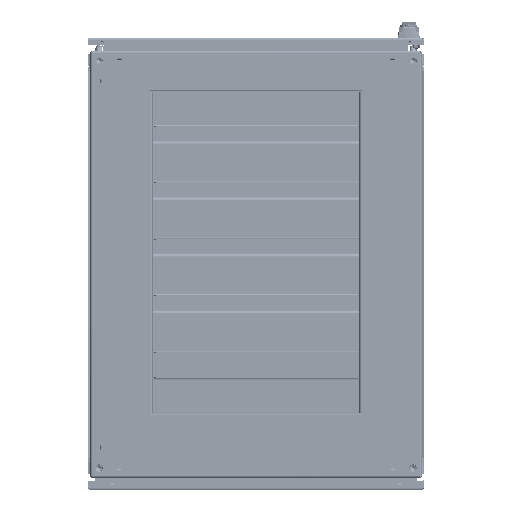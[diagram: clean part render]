
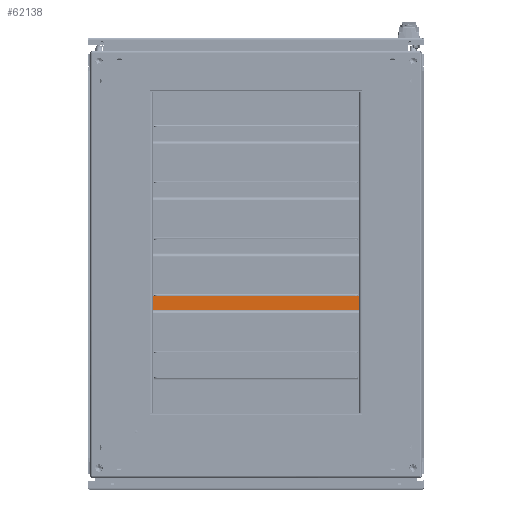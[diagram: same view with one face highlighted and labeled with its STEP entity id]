
A CAD part, front view. The second image highlights one B-rep face of the part: STEP entity #62138.
In plain terms, the highlighted planar face has unit normal (0, -1, 0).
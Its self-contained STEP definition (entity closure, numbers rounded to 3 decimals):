
#569 = DIRECTION ( 'NONE',  ( -1., 0., 0. ) ) ;
#2355 = CARTESIAN_POINT ( 'NONE',  ( -75.681, 2.3, 0. ) ) ;
#6676 = CARTESIAN_POINT ( 'NONE',  ( -105.681, 2.3, -432. ) ) ;
#7172 = VECTOR ( 'NONE', #99721, 1000. ) ;
#11654 = CARTESIAN_POINT ( 'NONE',  ( -130.681, 2.3, -17. ) ) ;
#17803 = CARTESIAN_POINT ( 'NONE',  ( -100.681, 2.3, -432. ) ) ;
#23735 = VERTEX_POINT ( 'NONE', #29572 ) ;
#27131 = EDGE_CURVE ( 'NONE', #38843, #72055, #151641, .T. ) ;
#29572 = CARTESIAN_POINT ( 'NONE',  ( -105.681, 2.3, -5. ) ) ;
#32481 = CARTESIAN_POINT ( 'NONE',  ( -75.681, 2.3, -432. ) ) ;
#36101 = AXIS2_PLACEMENT_3D ( 'NONE', #51805, #192894, #72130 ) ;
#37301 = CARTESIAN_POINT ( 'NONE',  ( -75.681, 2.3, -432. ) ) ;
#38293 = CARTESIAN_POINT ( 'NONE',  ( -75.681, 2.3, -432. ) ) ;
#38843 = VERTEX_POINT ( 'NONE', #65102 ) ;
#40366 = VECTOR ( 'NONE', #50060, 1000. ) ;
#40874 = EDGE_CURVE ( 'NONE', #78971, #85970, #247156, .T. ) ;
#40921 = EDGE_CURVE ( 'NONE', #183981, #167134, #234509, .T. ) ;
#40986 = DIRECTION ( 'NONE',  ( 0., 1., 0. ) ) ;
#43679 = LINE ( 'NONE', #261030, #211017 ) ;
#44098 = ORIENTED_EDGE ( 'NONE', *, *, #248265, .T. ) ;
#47064 = ORIENTED_EDGE ( 'NONE', *, *, #120904, .T. ) ;
#47252 = DIRECTION ( 'NONE',  ( 0., 0., -1. ) ) ;
#47344 = VECTOR ( 'NONE', #221485, 1000. ) ;
#48125 = EDGE_CURVE ( 'NONE', #183981, #142687, #181660, .T. ) ;
#49437 = AXIS2_PLACEMENT_3D ( 'NONE', #236186, #115358, #256446 ) ;
#50060 = DIRECTION ( 'NONE',  ( -1., 0., 0. ) ) ;
#51464 = CIRCLE ( 'NONE', #198625, 5. ) ;
#51625 = CARTESIAN_POINT ( 'NONE',  ( -110.681, 2.3, -415. ) ) ;
#51805 = CARTESIAN_POINT ( 'NONE',  ( -100.681, 2.3, -427. ) ) ;
#52827 = DIRECTION ( 'NONE',  ( 0., 1., 0. ) ) ;
#59184 = VERTEX_POINT ( 'NONE', #138895 ) ;
#59693 = VECTOR ( 'NONE', #140536, 1000. ) ;
#61233 = VECTOR ( 'NONE', #237680, 1000. ) ;
#62138 = ADVANCED_FACE ( 'NONE', ( #244660 ), #172777, .F. ) ;
#65102 = CARTESIAN_POINT ( 'NONE',  ( -135.681, 2.3, -410. ) ) ;
#65144 = CARTESIAN_POINT ( 'NONE',  ( -100.681, 2.3, -5. ) ) ;
#71254 = CARTESIAN_POINT ( 'NONE',  ( -105.681, 2.3, -12. ) ) ;
#72055 = VERTEX_POINT ( 'NONE', #161997 ) ;
#72130 = DIRECTION ( 'NONE',  ( -1., 0., 0. ) ) ;
#78546 = CARTESIAN_POINT ( 'NONE',  ( -130.681, 2.3, -22. ) ) ;
#78971 = VERTEX_POINT ( 'NONE', #11654 ) ;
#78979 = DIRECTION ( 'NONE',  ( -1., 0., 0. ) ) ;
#80685 = VERTEX_POINT ( 'NONE', #163421 ) ;
#84569 = ORIENTED_EDGE ( 'NONE', *, *, #237149, .T. ) ;
#85366 = ORIENTED_EDGE ( 'NONE', *, *, #48125, .T. ) ;
#85470 = DIRECTION ( 'NONE',  ( -1., 0., 0. ) ) ;
#85970 = VERTEX_POINT ( 'NONE', #196336 ) ;
#88747 = EDGE_CURVE ( 'NONE', #59184, #198581, #220683, .T. ) ;
#95140 = EDGE_CURVE ( 'NONE', #59184, #142687, #221165, .T. ) ;
#98832 = DIRECTION ( 'NONE',  ( -1., 0., 0. ) ) ;
#99721 = DIRECTION ( 'NONE',  ( 0., 0., 1. ) ) ;
#106885 = ORIENTED_EDGE ( 'NONE', *, *, #27131, .T. ) ;
#107721 = ORIENTED_EDGE ( 'NONE', *, *, #95140, .F. ) ;
#108665 = CIRCLE ( 'NONE', #137910, 5. ) ;
#108816 = ORIENTED_EDGE ( 'NONE', *, *, #40874, .T. ) ;
#115274 = CIRCLE ( 'NONE', #218843, 5. ) ;
#115358 = DIRECTION ( 'NONE',  ( 0., -1., 0. ) ) ;
#117234 = ORIENTED_EDGE ( 'NONE', *, *, #191788, .T. ) ;
#120904 = EDGE_CURVE ( 'NONE', #186586, #23735, #108665, .T. ) ;
#121524 = DIRECTION ( 'NONE',  ( 0., 1., 0. ) ) ;
#131303 = EDGE_CURVE ( 'NONE', #214307, #72055, #208394, .T. ) ;
#137910 = AXIS2_PLACEMENT_3D ( 'NONE', #65144, #206273, #85470 ) ;
#138220 = CARTESIAN_POINT ( 'NONE',  ( -105.681, 2.3, -427. ) ) ;
#138895 = CARTESIAN_POINT ( 'NONE',  ( -75.681, 2.3, -432. ) ) ;
#140536 = DIRECTION ( 'NONE',  ( 0., 0., 1. ) ) ;
#141104 = DIRECTION ( 'NONE',  ( 0., 0., 1. ) ) ;
#142687 = VERTEX_POINT ( 'NONE', #17803 ) ;
#145393 = EDGE_CURVE ( 'NONE', #214307, #167134, #51464, .T. ) ;
#151641 = CIRCLE ( 'NONE', #49437, 5. ) ;
#156802 = ORIENTED_EDGE ( 'NONE', *, *, #40921, .F. ) ;
#160779 = ORIENTED_EDGE ( 'NONE', *, *, #88747, .T. ) ;
#161656 = VECTOR ( 'NONE', #47252, 1000. ) ;
#161924 = CARTESIAN_POINT ( 'NONE',  ( -110.681, 2.3, -420. ) ) ;
#161997 = CARTESIAN_POINT ( 'NONE',  ( -130.681, 2.3, -415. ) ) ;
#163421 = CARTESIAN_POINT ( 'NONE',  ( -110.681, 2.3, -17. ) ) ;
#166271 = EDGE_LOOP ( 'NONE', ( #172721, #106885, #242601, #243538, #156802, #85366, #107721, #160779, #44098, #47064, #84569, #194023, #117234, #108816 ) ) ;
#167134 = VERTEX_POINT ( 'NONE', #254490 ) ;
#167497 = VECTOR ( 'NONE', #78979, 1000. ) ;
#167941 = LINE ( 'NONE', #6676, #161656 ) ;
#170910 = CARTESIAN_POINT ( 'NONE',  ( -75.681, 2.3, 0. ) ) ;
#172721 = ORIENTED_EDGE ( 'NONE', *, *, #249619, .F. ) ;
#172777 = PLANE ( 'NONE',  #256785 ) ;
#172861 = VERTEX_POINT ( 'NONE', #71254 ) ;
#181660 = CIRCLE ( 'NONE', #36101, 5. ) ;
#182153 = DIRECTION ( 'NONE',  ( -1., 0., 0. ) ) ;
#183981 = VERTEX_POINT ( 'NONE', #138220 ) ;
#186586 = VERTEX_POINT ( 'NONE', #234936 ) ;
#191788 = EDGE_CURVE ( 'NONE', #80685, #78971, #222234, .T. ) ;
#192894 = DIRECTION ( 'NONE',  ( 0., -1., 0. ) ) ;
#193936 = DIRECTION ( 'NONE',  ( -1., 0., 0. ) ) ;
#194023 = ORIENTED_EDGE ( 'NONE', *, *, #212377, .T. ) ;
#196336 = CARTESIAN_POINT ( 'NONE',  ( -135.681, 2.3, -22. ) ) ;
#198581 = VERTEX_POINT ( 'NONE', #2355 ) ;
#198625 = AXIS2_PLACEMENT_3D ( 'NONE', #161924, #40986, #182153 ) ;
#201152 = CARTESIAN_POINT ( 'NONE',  ( -75.681, 2.3, -415. ) ) ;
#206273 = DIRECTION ( 'NONE',  ( 0., -1., 0. ) ) ;
#208394 = LINE ( 'NONE', #201152, #47344 ) ;
#211017 = VECTOR ( 'NONE', #141104, 1000. ) ;
#212377 = EDGE_CURVE ( 'NONE', #172861, #80685, #115274, .T. ) ;
#214307 = VERTEX_POINT ( 'NONE', #51625 ) ;
#217391 = CARTESIAN_POINT ( 'NONE',  ( -75.681, 2.3, -17. ) ) ;
#217446 = AXIS2_PLACEMENT_3D ( 'NONE', #78546, #219629, #98832 ) ;
#218843 = AXIS2_PLACEMENT_3D ( 'NONE', #242343, #121524, #569 ) ;
#219629 = DIRECTION ( 'NONE',  ( 0., -1., 0. ) ) ;
#220683 = LINE ( 'NONE', #37301, #59693 ) ;
#221165 = LINE ( 'NONE', #38293, #167497 ) ;
#221485 = DIRECTION ( 'NONE',  ( -1., 0., 0. ) ) ;
#222234 = LINE ( 'NONE', #217391, #61233 ) ;
#234509 = LINE ( 'NONE', #240784, #7172 ) ;
#234936 = CARTESIAN_POINT ( 'NONE',  ( -100.681, 2.3, 0. ) ) ;
#236186 = CARTESIAN_POINT ( 'NONE',  ( -130.681, 2.3, -410. ) ) ;
#237149 = EDGE_CURVE ( 'NONE', #23735, #172861, #167941, .T. ) ;
#237680 = DIRECTION ( 'NONE',  ( -1., 0., 0. ) ) ;
#240784 = CARTESIAN_POINT ( 'NONE',  ( -105.681, 2.3, -432. ) ) ;
#242343 = CARTESIAN_POINT ( 'NONE',  ( -110.681, 2.3, -12. ) ) ;
#242601 = ORIENTED_EDGE ( 'NONE', *, *, #131303, .F. ) ;
#243538 = ORIENTED_EDGE ( 'NONE', *, *, #145393, .T. ) ;
#244660 = FACE_OUTER_BOUND ( 'NONE', #166271, .T. ) ;
#247156 = CIRCLE ( 'NONE', #217446, 5. ) ;
#248265 = EDGE_CURVE ( 'NONE', #198581, #186586, #248709, .T. ) ;
#248709 = LINE ( 'NONE', #170910, #40366 ) ;
#249619 = EDGE_CURVE ( 'NONE', #38843, #85970, #43679, .T. ) ;
#254490 = CARTESIAN_POINT ( 'NONE',  ( -105.681, 2.3, -420. ) ) ;
#256446 = DIRECTION ( 'NONE',  ( -1., 0., 0. ) ) ;
#256785 = AXIS2_PLACEMENT_3D ( 'NONE', #32481, #52827, #193936 ) ;
#261030 = CARTESIAN_POINT ( 'NONE',  ( -135.681, 2.3, -432. ) ) ;
